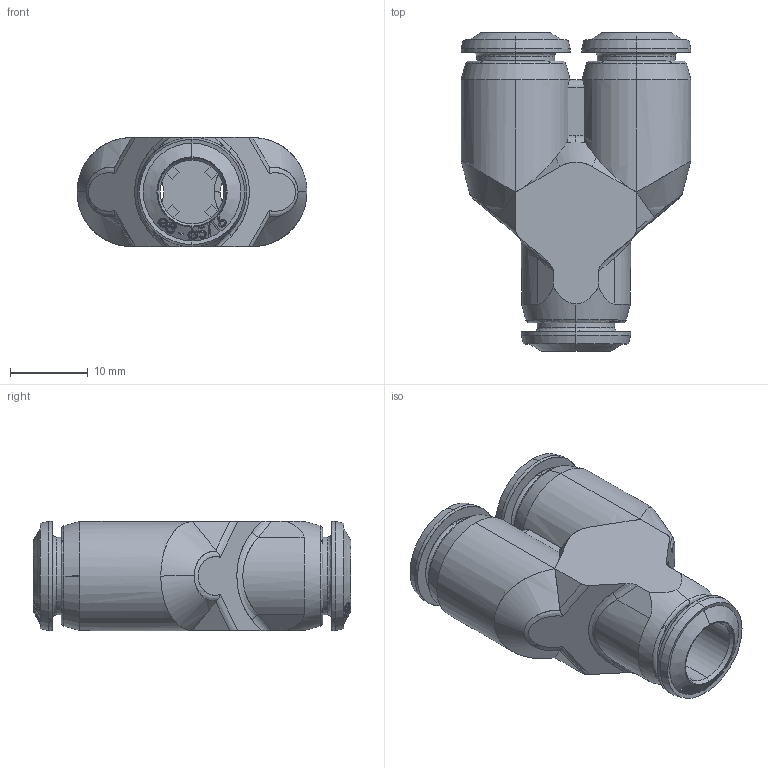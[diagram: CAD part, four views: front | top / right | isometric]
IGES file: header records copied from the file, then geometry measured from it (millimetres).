
Start section: SolidWorks IGES file using analytic representation for surfaces
Global section: file name: U:\PERSONALE AIGNEP\Roberio Zoli\5531000005.IGS; native system: SolidWorks 2016; preprocessor: SolidWorks 2016; author: cad07; date: 180314.113550; units: millimetre
Bounding box: 29.5 x 40.8 x 14 mm (x, y, z)
Surface area: 5277.4 mm2 (no closed solid volume)
Topology: 0 solids, 0 shells, 521 faces, 5404 edges, 5402 vertices
Faces by surface type: bspline 365, revolution 156
